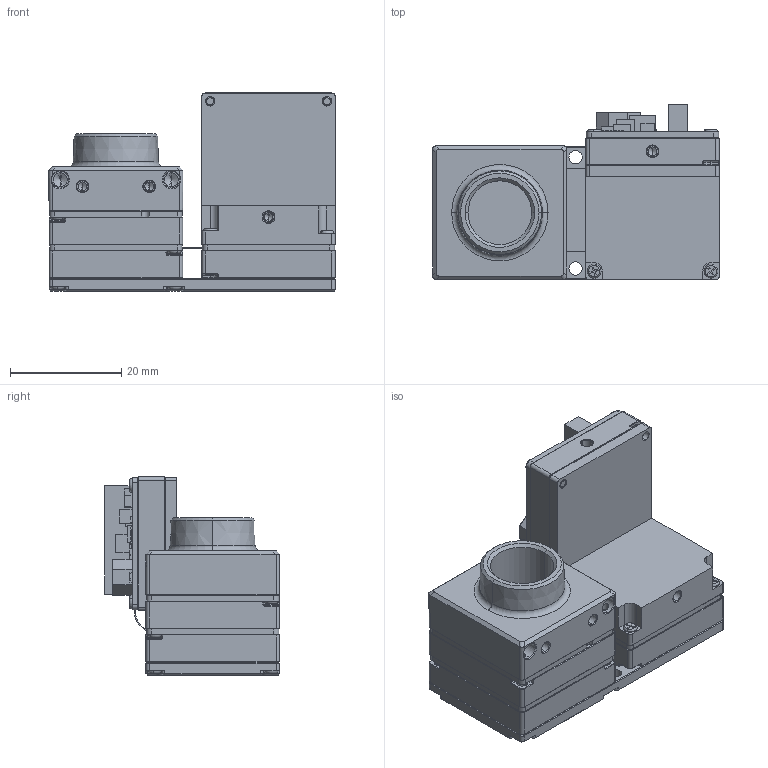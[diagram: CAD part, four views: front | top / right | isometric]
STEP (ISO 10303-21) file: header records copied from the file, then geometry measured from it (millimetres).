
FILE_DESCRIPTION (( 'STEP AP203' ), '1' );
FILE_NAME ('434-018-B_FFC_180+90.STEP', '2025-04-21T19:23:51', ( '' ), ( '' ), 'SwSTEP 2.0', 'SolidWorks 2021', '' );
FILE_SCHEMA (( 'CONFIG_CONTROL_DESIGN' ));
Products named in the file (1): 434-018-B_FFC_180+90
Bounding box: 51.51 x 31.45 x 35.6 mm (x, y, z)
Volume: 14244.5 mm3; surface area: 21748.5 mm2
Topology: 71 solids, 71 shells, 5043 faces, 12797 edges, 7749 vertices
Faces by surface type: plane 2679, cylinder 1358, cone 394, bspline 360, torus 166, sphere 86
Entity records: 155238 total; most frequent: CARTESIAN_POINT 35990, ORIENTED_EDGE 25094, DIRECTION 24317, EDGE_CURVE 12547, VECTOR 8541, LINE 8541, AXIS2_PLACEMENT_3D 7888, VERTEX_POINT 7743
